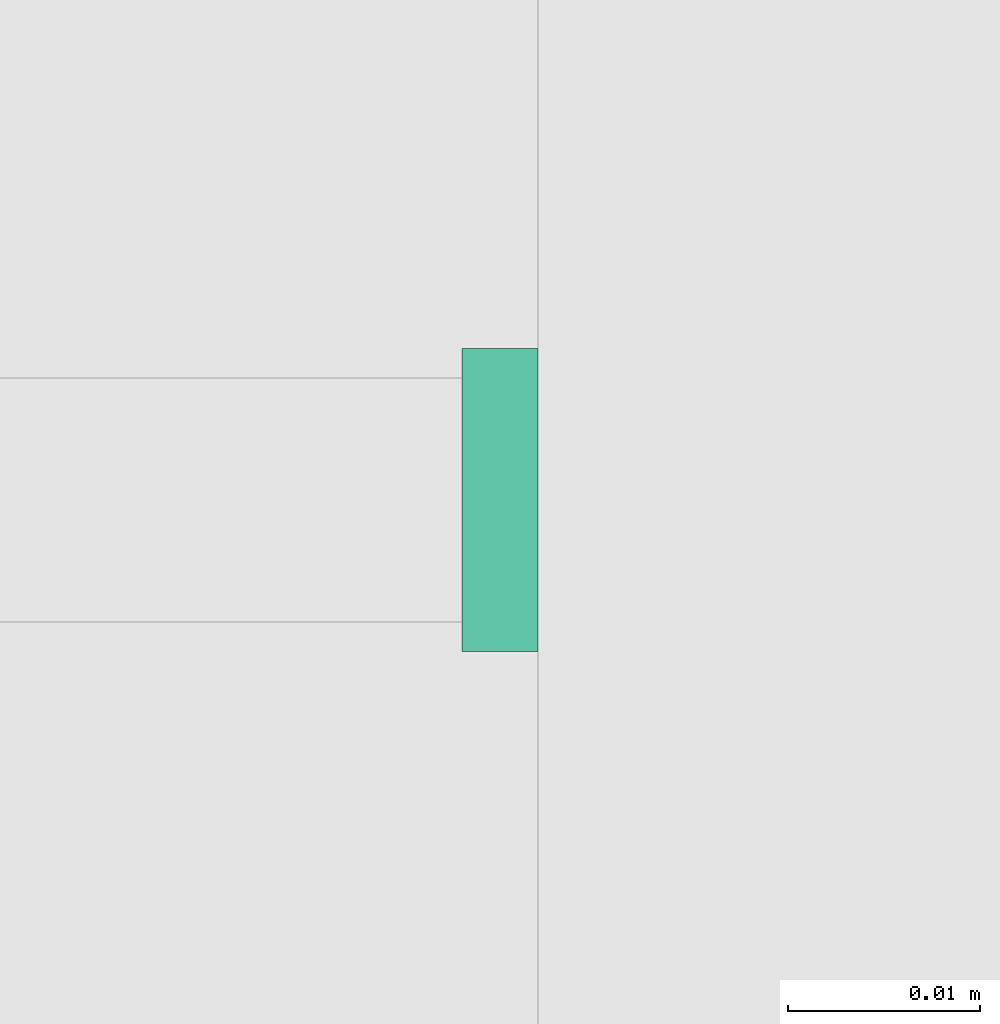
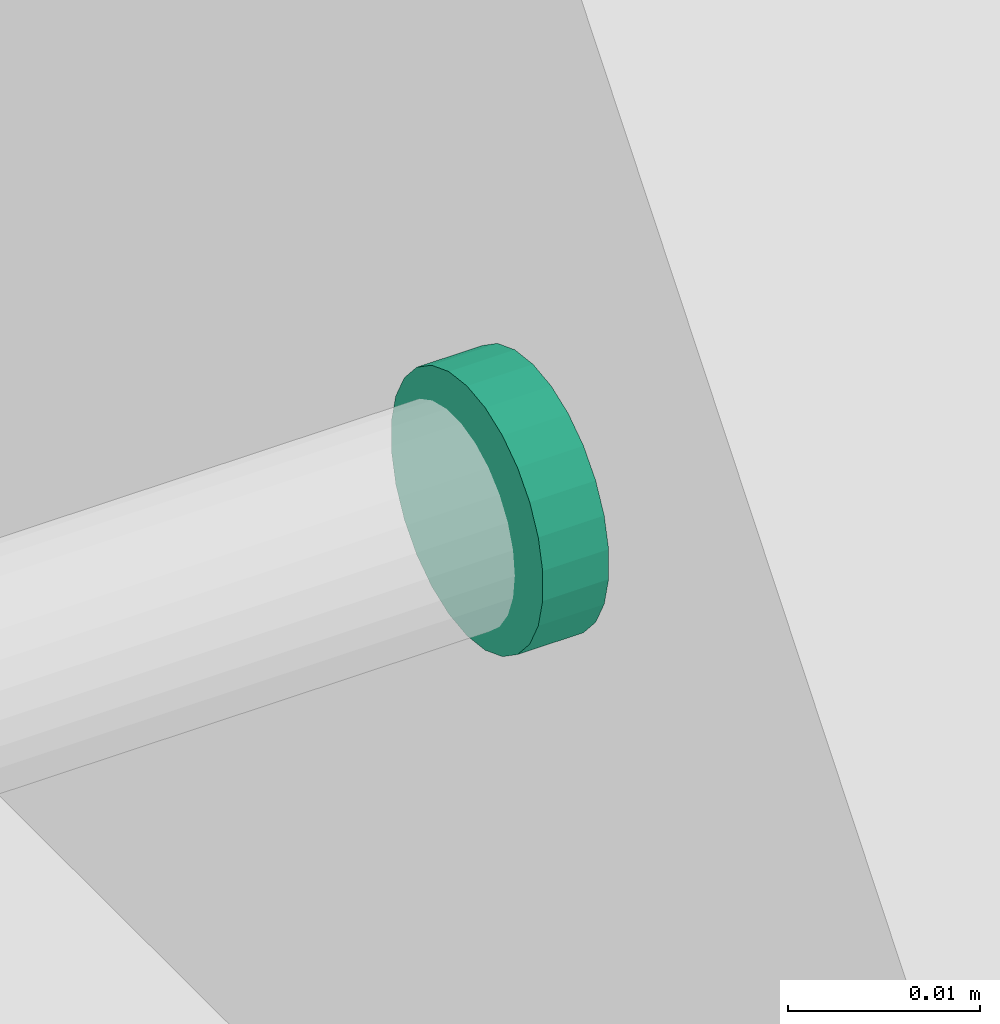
# One storey, part 17 of 22: 1 flow fitting.
"""IFC2X3 building model written with IfcOpenShell, lengths in millimetres."""

from ifc_helpers import new_model, entity, si_unit, converted_unit, derived_unit, direction, frame, origin, origin_2d_with_axis, place, context, subcontext, project, spatial, circle, extrude, source, transform, mapped, material, type_object, type_shapes, element, save


model = new_model("IFC2X3")

# Units and contexts
model_context = context("Model", 3, precision=0.01, world=origin(), true_north=direction((6.123031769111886e-17, 1.0)))
body_context = subcontext(model_context, "Body", "Model", "MODEL_VIEW")
ifc_project = project(units=[si_unit("LENGTHUNIT", "METRE", prefix="MILLI"), si_unit("AREAUNIT", "SQUARE_METRE"), si_unit("VOLUMEUNIT", "CUBIC_METRE"), converted_unit("PLANEANGLEUNIT", "DEGREE", entity("IfcRatioMeasure", 0.017453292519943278), si_unit("PLANEANGLEUNIT", "RADIAN"), dimensions=[0, 0, 0, 0, 0, 0, 0]), si_unit("MASSUNIT", "GRAM", prefix="KILO"), derived_unit("MASSDENSITYUNIT", [(si_unit("MASSUNIT", "GRAM", prefix="KILO"), 1), (si_unit("LENGTHUNIT", "METRE"), -3)]), derived_unit("MOMENTOFINERTIAUNIT", [(si_unit("LENGTHUNIT", "METRE"), 4)]), si_unit("TIMEUNIT", "SECOND"), si_unit("FREQUENCYUNIT", "HERTZ"), si_unit("THERMODYNAMICTEMPERATUREUNIT", "DEGREE_CELSIUS"), derived_unit("THERMALTRANSMITTANCEUNIT", [(si_unit("MASSUNIT", "GRAM", prefix="KILO"), 1), (si_unit("THERMODYNAMICTEMPERATUREUNIT", "KELVIN"), -1), (si_unit("TIMEUNIT", "SECOND"), -3)]), derived_unit("VOLUMETRICFLOWRATEUNIT", [(si_unit("LENGTHUNIT", "METRE"), 3), (si_unit("TIMEUNIT", "SECOND"), -1)]), derived_unit("MASSFLOWRATEUNIT", [(si_unit("MASSUNIT", "GRAM", prefix="KILO"), 1), (si_unit("TIMEUNIT", "SECOND"), -1)]), derived_unit("ROTATIONALFREQUENCYUNIT", [(si_unit("TIMEUNIT", "SECOND"), -1)]), si_unit("ELECTRICCURRENTUNIT", "AMPERE"), si_unit("ELECTRICVOLTAGEUNIT", "VOLT"), si_unit("POWERUNIT", "WATT"), si_unit("FORCEUNIT", "NEWTON", prefix="KILO"), si_unit("ILLUMINANCEUNIT", "LUX"), si_unit("LUMINOUSFLUXUNIT", "LUMEN"), si_unit("LUMINOUSINTENSITYUNIT", "CANDELA"), derived_unit("USERDEFINED", [(si_unit("MASSUNIT", "GRAM", prefix="KILO"), -1), (si_unit("LENGTHUNIT", "METRE"), -2), (si_unit("TIMEUNIT", "SECOND"), 3), (si_unit("LUMINOUSFLUXUNIT", "LUMEN"), 1)]), derived_unit("SOUNDPOWERUNIT", [(si_unit("MASSUNIT", "GRAM", prefix="KILO"), 1), (si_unit("LENGTHUNIT", "METRE"), 2), (si_unit("TIMEUNIT", "SECOND"), -3)]), derived_unit("SOUNDPRESSUREUNIT", [(si_unit("MASSUNIT", "GRAM", prefix="KILO"), 1), (si_unit("LENGTHUNIT", "METRE"), -1), (si_unit("TIMEUNIT", "SECOND"), -2)]), derived_unit("LINEARVELOCITYUNIT", [(si_unit("LENGTHUNIT", "METRE"), 1), (si_unit("TIMEUNIT", "SECOND"), -1)]), si_unit("PRESSUREUNIT", "PASCAL"), derived_unit("USERDEFINED", [(si_unit("LENGTHUNIT", "METRE"), -2), (si_unit("MASSUNIT", "GRAM", prefix="KILO"), 1), (si_unit("TIMEUNIT", "SECOND"), -2)]), derived_unit("LINEARFORCEUNIT", [(si_unit("MASSUNIT", "GRAM", prefix="KILO"), 1), (si_unit("LENGTHUNIT", "METRE"), 1), (si_unit("TIMEUNIT", "SECOND"), -2), (si_unit("LENGTHUNIT", "METRE"), -1)]), derived_unit("PLANARFORCEUNIT", [(si_unit("MASSUNIT", "GRAM", prefix="KILO"), 1), (si_unit("LENGTHUNIT", "METRE"), 1), (si_unit("TIMEUNIT", "SECOND"), -2), (si_unit("LENGTHUNIT", "METRE"), -2)])], contexts=[model_context])

# Site, building, storey
site_placement = place(None, origin())
site = spatial("IfcSite", under=ifc_project, at=site_placement, Name="Default", CompositionType="ELEMENT")
building_placement = place(site_placement, origin())
building = spatial("IfcBuilding", under=site, at=building_placement, CompositionType="ELEMENT")
storey_placement = place(building_placement, frame((0.0, 0.0, 3300.0)))
storey = spatial("IfcBuildingStorey", under=building, at=storey_placement, Name="Level 2", CompositionType="ELEMENT", Elevation=3299.99999999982)

# Flow fitting
ifc_material = material(Name="<Unnamed>")
pipe_fitting_type = type_object("IfcPipeFittingType", Name="M_Transition - Generic:Standard:Standard : M_Transition - Generic:Standard", PredefinedType="NOTDEFINED", material=ifc_material)
shared_shape = source(origin(), body_context, "Body", "SweptSolid", [
    extrude(circle(Radius=7.937500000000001, at=origin_2d_with_axis()), frame((2447.57616717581, -2607.14111987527, 6010.0), z_axis=(1.0, 0.0, 0.0), x_axis=(0.0, 0.0, 1.0)), (0.0, 0.0, 1.0), 3.9687500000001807),
])
type_shapes(pipe_fitting_type, [shared_shape])
flow_fitting_placement = place(storey_placement, frame((0.0, 0.0, -3300.0)))
element("IfcFlowFitting", 1, at=flow_fitting_placement, inside=storey, type_object=pipe_fitting_type, material=ifc_material, Name="M_Transition - Generic:Standard:Standard : M_Transition - Generic:Standard:Standard:Standard : M_Transition - Generic:Standard : M_Transition - Generic:Standard:Standard : M_Transition - Generic:Standard", ObjectType="M_Transition - Generic:Standard:Standard : M_Transition - Generic:Standard:Standard:Standard : M_Transition - Generic:Standard : M_Transition - Generic:Standard:Standard : M_Transition - Generic:Standard", context=body_context, shape_type="MappedRepresentation", body=[
    mapped(shared_shape, transform((0.0, 0.0, 0.0), scale=1.0)),
])

save(model, "model.ifc")
